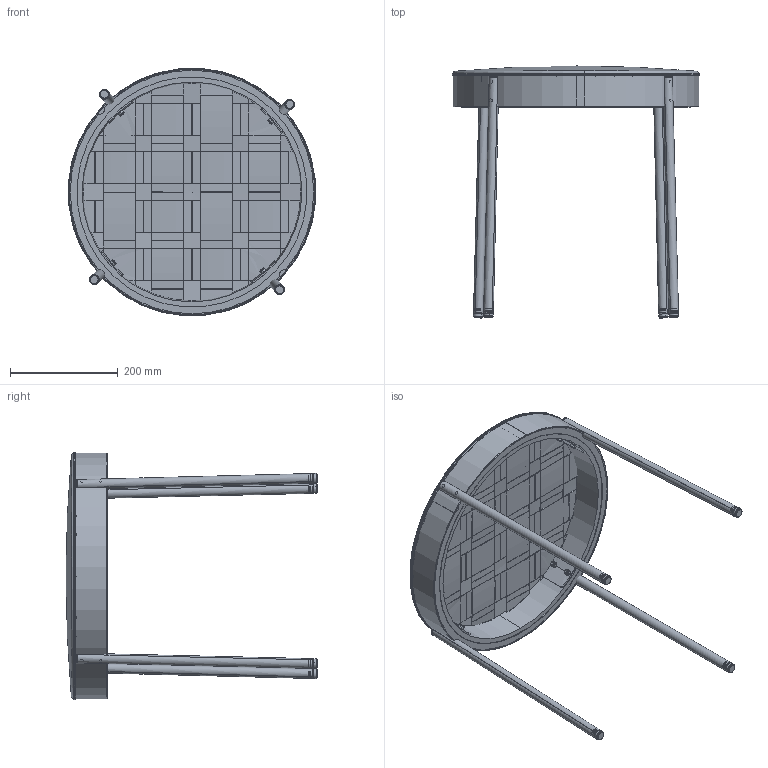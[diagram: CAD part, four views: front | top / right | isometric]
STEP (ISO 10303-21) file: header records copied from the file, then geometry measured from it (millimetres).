
FILE_DESCRIPTION (( 'STEP AP214' ), '1' );
FILE_NAME ('430 Stool.STEP', '2024-04-03T11:16:13', ( '' ), ( '' ), 'SwSTEP 2.0', 'SolidWorks 2022', '' );
FILE_SCHEMA (( 'AUTOMOTIVE_DESIGN' ));
Length unit declared in the file: millimetre
Products named in the file (8): Plate 3mm 60 x 50 R200 with 2 x Ø6,4For stool; M6 x 35 Socket head cap screwFor stool; 430 Stool; Verpan Serie 430 Chair_FORben V2_2For stool; Verpan Serie 430 Chair_Sæderamme til Serie430_VinkFor stool; Vepan Serie 430 - UpholsteryFor stool; Verpan Serie 430 - Weaved meshFor stool; Felt insert ø18For stool
Assembly tree (23 placements, depth 2):
  430 Stool
    Verpan Serie 430 Chair_Sæderamme til Serie430_VinkFor stool
    Verpan Serie 430 Chair_FORben V2_2For stool  x4
    Plate 3mm 60 x 50 R200 with 2 x Ø6,4For stool  x4
    M6 x 35 Socket head cap screwFor stool  x8
    Verpan Serie 430 - Weaved meshFor stool
    Felt insert ø18For stool  x4
    Vepan Serie 430 - UpholsteryFor stool
Bounding box: 459.03 x 467.43 x 459.03 mm (x, y, z)
Volume: 2367392.5 mm3; surface area: 1339480.1 mm2
Topology: 34 solids, 34 shells, 1109 faces, 2839 edges, 1828 vertices
Faces by surface type: cylinder 753, plane 186, torus 106, bspline 32, cone 30, sphere 2
Entity records: 16678 total; most frequent: CARTESIAN_POINT 8098, ORIENTED_EDGE 1744, DIRECTION 1703, EDGE_CURVE 872, AXIS2_PLACEMENT_3D 715, VERTEX_POINT 560, EDGE_LOOP 388, ADVANCED_FACE 351
